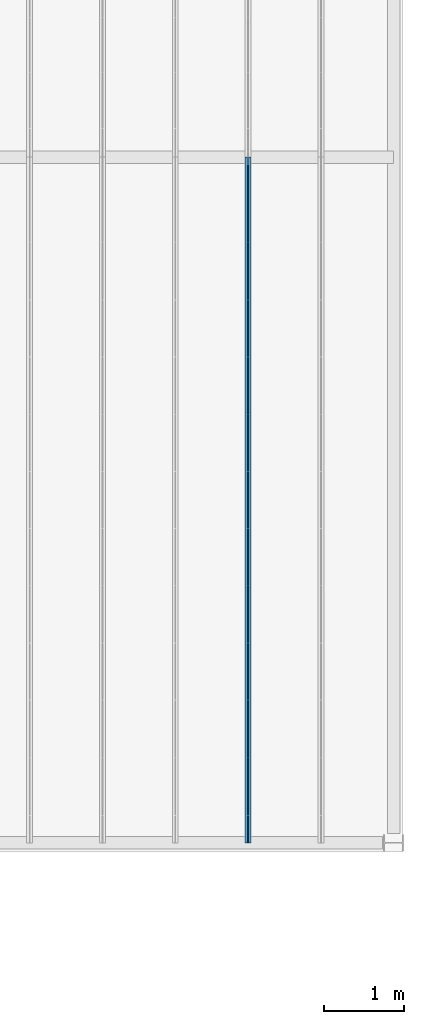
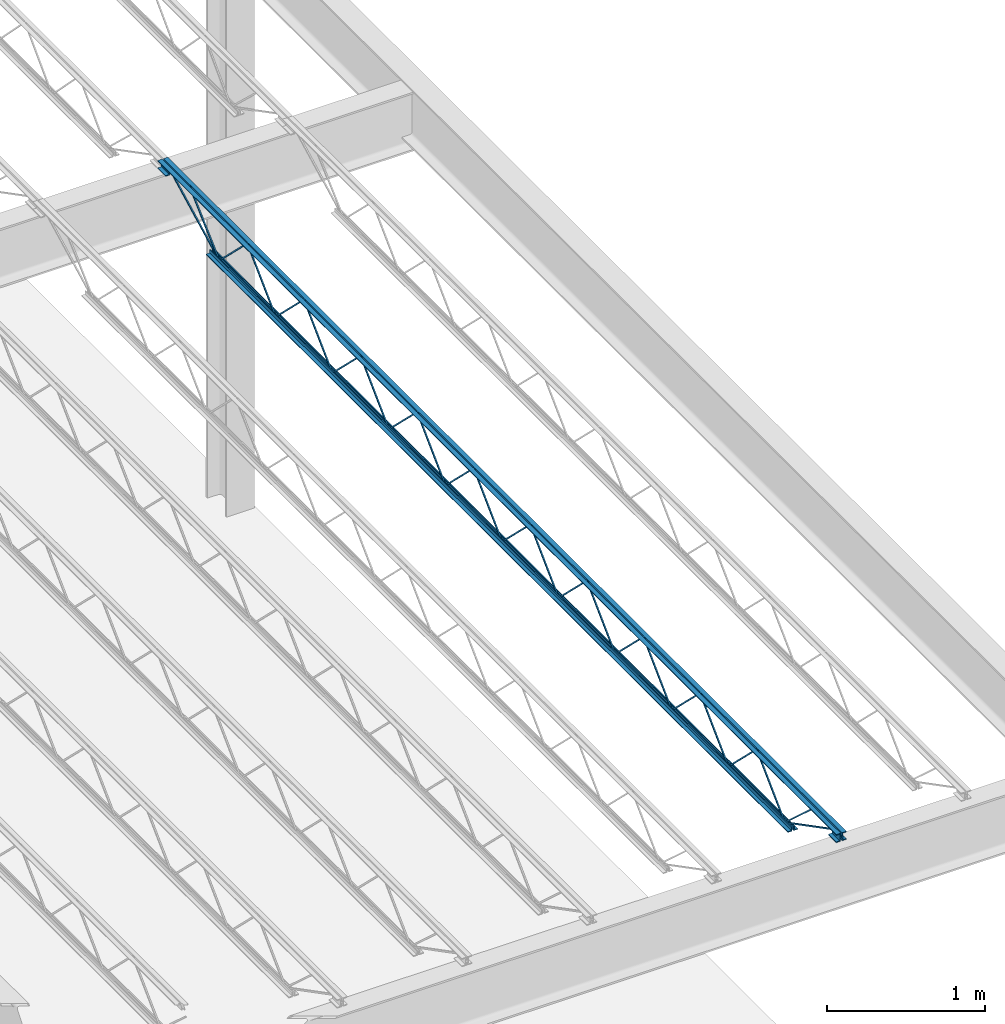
# One storey, part 69 of 119: 1 beam.
"""IFC2X3 building model written with IfcOpenShell, lengths in metres."""

from ifc_helpers import new_model, entity, si_unit, converted_unit, frame, origin, place, context, project, spatial, face_set, surface_model, element, save


model = new_model("IFC2X3")

# Units and contexts
model_context = context("Model", 3, precision=1e-09, world=origin())
plan_context = context("Plan", 3, precision=1e-09, world=origin())
ifc_project = project(units=[si_unit("LENGTHUNIT", "METRE"), si_unit("AREAUNIT", "SQUARE_METRE"), si_unit("VOLUMEUNIT", "CUBIC_METRE"), converted_unit("PLANEANGLEUNIT", "DEGREE", entity("IfcRatioMeasure", 0.01745329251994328), si_unit("PLANEANGLEUNIT", "RADIAN"), dimensions=[0, 0, 0, 0, 0, 0, 0]), si_unit("TIMEUNIT", "SECOND")], contexts=[model_context, plan_context])

# Site, building, storey
site_placement = place(None, origin())
site = spatial("IfcSite", under=ifc_project, at=site_placement, Name="Default", CompositionType="ELEMENT")
building_placement = place(site_placement, origin())
building = spatial("IfcBuilding", under=site, at=building_placement, CompositionType="ELEMENT")
storey_placement = place(building_placement, frame((0.0, 0.0, 4.570000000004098)))
storey = spatial("IfcBuildingStorey", under=building, at=storey_placement, Name="Second Floor", CompositionType="ELEMENT", Elevation=4.570000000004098)

# Beam
beam_placement = place(storey_placement, frame((-1.856750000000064, 10.03999999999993, 4.323999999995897)))
element("IfcBeam", 1, at=beam_placement, inside=storey, Name="M_K-Series Bar Joist-Rod Web:14K1:14K1", ObjectType="M_K-Series Bar Joist-Rod Web:14K1", context=model_context, shape_type="SurfaceModel", body=[
    surface_model("IfcFaceBasedSurfaceModel", [(0.04150000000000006, 6.428799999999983, 0.01110000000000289), (0.03200000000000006, 6.428799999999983, 0.01110000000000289), (0.03200000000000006, 6.428799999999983, 0.001600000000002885), (0.04150000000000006, 6.428799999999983, 0.001600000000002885), (0.03200000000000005, 6.430038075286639, 0.01110000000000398), (0.04150000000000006, 6.430038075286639, 0.01110000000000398), (0.03200000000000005, 6.433911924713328, 0.001600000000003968), (0.03200000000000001, 6.784861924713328, 0.3449000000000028), (0.03200000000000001, 6.787338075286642, 0.3449000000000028), (0.03199999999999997, 7.138288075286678, 0.001600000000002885), (0.03199999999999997, 7.143399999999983, 0.001600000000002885), (0.03199999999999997, 7.143399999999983, 0.01110000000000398), (0.03199999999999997, 7.142161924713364, 0.01110000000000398), (0.032, 6.791211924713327, 0.3544000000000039), (0.03200000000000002, 6.780988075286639, 0.3544000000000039), (0.04150000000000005, 6.433911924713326, 0.001600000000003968), (0.04150000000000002, 6.784861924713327, 0.3449000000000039), (0.04150000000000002, 6.78733807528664, 0.3449000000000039), (0.04149999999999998, 7.138288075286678, 0.001600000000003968), (0.04149999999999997, 7.143399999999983, 0.001600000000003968), (0.04149999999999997, 7.143399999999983, 0.01110000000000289), (0.04149999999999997, 7.142161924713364, 0.01110000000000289), (0.04150000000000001, 6.79121192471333, 0.3544000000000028), (0.04150000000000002, 6.780988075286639, 0.3544000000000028), (0.04150000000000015, 5.714199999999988, 0.01110000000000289), (0.03200000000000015, 5.714199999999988, 0.01110000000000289), (0.03200000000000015, 5.714199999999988, 0.001600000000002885), (0.04150000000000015, 5.714199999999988, 0.001600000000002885), (0.03200000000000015, 5.715438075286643, 0.01110000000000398), (0.04150000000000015, 5.715438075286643, 0.01110000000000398), (0.03200000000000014, 5.71931192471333, 0.001600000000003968), (0.03200000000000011, 6.07026192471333, 0.3449000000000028), (0.0320000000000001, 6.072738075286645, 0.3449000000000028), (0.03200000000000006, 6.423688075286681, 0.001600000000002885), (0.03200000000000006, 6.428799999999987, 0.001600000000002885), (0.03200000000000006, 6.428799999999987, 0.01110000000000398), (0.03200000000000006, 6.427561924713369, 0.01110000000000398), (0.03200000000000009, 6.076611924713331, 0.3544000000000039), (0.03200000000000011, 6.066388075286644, 0.3544000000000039), (0.04150000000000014, 5.71931192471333, 0.001600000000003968), (0.04150000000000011, 6.07026192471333, 0.3449000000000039), (0.0415000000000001, 6.072738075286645, 0.3449000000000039), (0.04150000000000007, 6.423688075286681, 0.001600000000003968), (0.04150000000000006, 6.428799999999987, 0.001600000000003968), (0.04150000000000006, 6.428799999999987, 0.01110000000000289), (0.04150000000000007, 6.427561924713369, 0.01110000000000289), (0.0415000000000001, 6.076611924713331, 0.3544000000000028), (0.04150000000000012, 6.066388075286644, 0.3544000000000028), (0.04149999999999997, 4.999599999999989, 0.01110000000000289), (0.03199999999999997, 4.999599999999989, 0.01110000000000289), (0.03199999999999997, 4.999599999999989, 0.001600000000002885), (0.04149999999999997, 4.999599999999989, 0.001600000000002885), (0.03199999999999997, 5.000838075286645, 0.01110000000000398), (0.04149999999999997, 5.000838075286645, 0.01110000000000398), (0.03199999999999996, 5.004711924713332, 0.001600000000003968), (0.03199999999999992, 5.355661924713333, 0.3449000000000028), (0.03200000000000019, 5.358138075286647, 0.3449000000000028), (0.03200000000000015, 5.709088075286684, 0.001600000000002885), (0.03200000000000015, 5.714199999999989, 0.001600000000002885), (0.03199999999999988, 5.714199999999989, 0.01110000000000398), (0.03199999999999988, 5.712961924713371, 0.01110000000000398), (0.03199999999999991, 5.362011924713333, 0.3544000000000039), (0.03199999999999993, 5.351788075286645, 0.3544000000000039), (0.04149999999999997, 5.004711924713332, 0.001600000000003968), (0.04149999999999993, 5.355661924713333, 0.3449000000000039), (0.04149999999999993, 5.358138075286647, 0.3449000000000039), (0.04149999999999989, 5.709088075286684, 0.001600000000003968), (0.04149999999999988, 5.714199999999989, 0.001600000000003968), (0.04150000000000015, 5.714199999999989, 0.01110000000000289), (0.04150000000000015, 5.712961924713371, 0.01110000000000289), (0.04150000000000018, 5.362011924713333, 0.3544000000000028), (0.04149999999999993, 5.351788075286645, 0.3544000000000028), (0.04150000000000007, 4.284999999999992, 0.01110000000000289), (0.03200000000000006, 4.284999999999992, 0.01110000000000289), (0.03200000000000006, 4.284999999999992, 0.001600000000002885), (0.04150000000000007, 4.284999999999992, 0.001600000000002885), (0.03200000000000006, 4.286238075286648, 0.01110000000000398), (0.04150000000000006, 4.286238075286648, 0.01110000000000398), (0.03200000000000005, 4.290111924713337, 0.001600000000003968), (0.03200000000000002, 4.641061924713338, 0.3449000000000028), (0.03200000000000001, 4.643538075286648, 0.3449000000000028), (0.03199999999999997, 4.994488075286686, 0.001600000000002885), (0.03199999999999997, 4.999599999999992, 0.001600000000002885), (0.03199999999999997, 4.999599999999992, 0.01110000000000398), (0.03199999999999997, 4.998361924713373, 0.01110000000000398), (0.032, 4.647411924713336, 0.3544000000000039), (0.03200000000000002, 4.637188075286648, 0.3544000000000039), (0.04150000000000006, 4.290111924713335, 0.001600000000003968), (0.04150000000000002, 4.641061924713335, 0.3449000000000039), (0.04150000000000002, 4.643538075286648, 0.3449000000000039), (0.04149999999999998, 4.994488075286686, 0.001600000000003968), (0.04149999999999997, 4.999599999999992, 0.001600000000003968), (0.04149999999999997, 4.999599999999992, 0.01110000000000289), (0.04149999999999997, 4.998361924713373, 0.01110000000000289), (0.04150000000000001, 4.647411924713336, 0.3544000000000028), (0.04150000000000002, 4.637188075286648, 0.3544000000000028), (0.04150000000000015, 3.570399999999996, 0.01110000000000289), (0.03200000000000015, 3.570399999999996, 0.01110000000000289), (0.03200000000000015, 3.570399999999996, 0.001600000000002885), (0.04150000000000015, 3.570399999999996, 0.001600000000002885), (0.03200000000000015, 3.571638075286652, 0.01110000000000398), (0.04150000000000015, 3.571638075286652, 0.01110000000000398), (0.03200000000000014, 3.575511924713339, 0.001600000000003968), (0.03200000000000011, 3.926461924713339, 0.3449000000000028), (0.0320000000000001, 3.928938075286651, 0.3449000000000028), (0.03200000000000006, 4.279888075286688, 0.001600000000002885), (0.03200000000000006, 4.284999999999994, 0.001600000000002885), (0.03200000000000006, 4.284999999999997, 0.01110000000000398), (0.03200000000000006, 4.283761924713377, 0.01110000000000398), (0.03200000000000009, 3.93281192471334, 0.3544000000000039), (0.03200000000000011, 3.922588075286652, 0.3544000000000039), (0.04150000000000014, 3.575511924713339, 0.001600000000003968), (0.04150000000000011, 3.926461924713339, 0.3449000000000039), (0.04150000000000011, 3.928938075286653, 0.3449000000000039), (0.04150000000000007, 4.27988807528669, 0.001600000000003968), (0.04150000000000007, 4.284999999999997, 0.001600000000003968), (0.04150000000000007, 4.284999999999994, 0.01110000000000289), (0.04150000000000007, 4.283761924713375, 0.01110000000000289), (0.0415000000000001, 3.932811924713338, 0.3544000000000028), (0.04150000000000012, 3.922588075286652, 0.3544000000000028), (0.04149999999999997, 2.855799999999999, 0.01110000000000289), (0.03199999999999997, 2.855799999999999, 0.01110000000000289), (0.03199999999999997, 2.855799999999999, 0.001600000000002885), (0.04149999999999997, 2.855799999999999, 0.001600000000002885), (0.03199999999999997, 2.857038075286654, 0.01110000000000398), (0.04149999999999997, 2.857038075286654, 0.01110000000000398), (0.03199999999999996, 2.860911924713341, 0.001600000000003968), (0.03199999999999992, 3.211861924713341, 0.3449000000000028), (0.0320000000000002, 3.214338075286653, 0.3449000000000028), (0.03200000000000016, 3.56528807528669, 0.001600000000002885), (0.03199999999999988, 3.570399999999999, 0.01110000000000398), (0.03199999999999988, 3.56916192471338, 0.01110000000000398), (0.03199999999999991, 3.218211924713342, 0.3544000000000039), (0.03199999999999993, 3.207988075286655, 0.3544000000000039), (0.04149999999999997, 2.860911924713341, 0.001600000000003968), (0.04149999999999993, 3.211861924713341, 0.3449000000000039), (0.04149999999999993, 3.214338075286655, 0.3449000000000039), (0.04149999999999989, 3.565288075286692, 0.001600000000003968), (0.04149999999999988, 3.570399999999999, 0.001600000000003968), (0.04150000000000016, 3.569161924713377, 0.01110000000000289), (0.0415000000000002, 3.21821192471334, 0.3544000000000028), (0.04149999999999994, 3.207988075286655, 0.3544000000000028), (0.04150000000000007, 2.1412, 0.01110000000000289), (0.03200000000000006, 2.1412, 0.01110000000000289), (0.03200000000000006, 2.1412, 0.001600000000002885), (0.04150000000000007, 2.1412, 0.001600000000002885), (0.03200000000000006, 2.142438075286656, 0.01110000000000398), (0.04150000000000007, 2.142438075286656, 0.01110000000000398), (0.03200000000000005, 2.146311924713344, 0.001600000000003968), (0.03200000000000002, 2.497261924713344, 0.3449000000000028), (0.03200000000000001, 2.499738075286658, 0.3449000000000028), (0.03199999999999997, 2.850688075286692, 0.001600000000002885), (0.03199999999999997, 2.8558, 0.001600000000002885), (0.03199999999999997, 2.8558, 0.01110000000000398), (0.03199999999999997, 2.854561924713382, 0.01110000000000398), (0.03200000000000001, 2.503611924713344, 0.3544000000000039), (0.03200000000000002, 2.493388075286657, 0.3544000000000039), (0.04150000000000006, 2.146311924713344, 0.001600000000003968), (0.04150000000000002, 2.497261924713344, 0.3449000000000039), (0.04150000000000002, 2.499738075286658, 0.3449000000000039), (0.04149999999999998, 2.850688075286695, 0.001600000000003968), (0.04149999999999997, 2.8558, 0.001600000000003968), (0.04149999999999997, 2.8558, 0.01110000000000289), (0.04149999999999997, 2.854561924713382, 0.01110000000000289), (0.04150000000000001, 2.503611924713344, 0.3544000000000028), (0.04150000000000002, 2.493388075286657, 0.3544000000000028), (0.04150000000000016, 1.426600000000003, 0.01110000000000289), (0.03200000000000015, 1.426600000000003, 0.01110000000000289), (0.03200000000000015, 1.426600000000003, 0.001600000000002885), (0.04150000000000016, 1.426600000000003, 0.001600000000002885), (0.03200000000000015, 1.427838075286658, 0.01110000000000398), (0.04150000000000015, 1.427838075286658, 0.01110000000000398), (0.03200000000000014, 1.431711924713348, 0.001600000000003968), (0.03200000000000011, 1.782661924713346, 0.3449000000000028), (0.03200000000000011, 1.78513807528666, 0.3449000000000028), (0.03200000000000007, 2.136088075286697, 0.001600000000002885), (0.03200000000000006, 2.141200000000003, 0.001600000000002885), (0.03200000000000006, 2.141200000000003, 0.01110000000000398), (0.03200000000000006, 2.139961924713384, 0.01110000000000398), (0.03200000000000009, 1.789011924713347, 0.3544000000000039), (0.03200000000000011, 1.778788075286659, 0.3544000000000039), (0.04150000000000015, 1.431711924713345, 0.001600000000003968), (0.04150000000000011, 1.782661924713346, 0.3449000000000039), (0.04150000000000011, 1.78513807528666, 0.3449000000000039), (0.04150000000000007, 2.136088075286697, 0.001600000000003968), (0.04150000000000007, 2.141200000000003, 0.001600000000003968), (0.04150000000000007, 2.141200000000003, 0.01110000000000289), (0.04150000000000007, 2.139961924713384, 0.01110000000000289), (0.0415000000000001, 1.789011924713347, 0.3544000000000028), (0.04150000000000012, 1.778788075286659, 0.3544000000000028), (0.04150000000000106, 7.143399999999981, 0.01109999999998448), (0.03200000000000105, 7.143399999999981, 0.01109999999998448), (0.03200000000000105, 7.143399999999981, 0.001599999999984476), (0.04150000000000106, 7.143399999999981, 0.001599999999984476), (0.03200000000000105, 7.144638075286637, 0.01109999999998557), (0.04150000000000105, 7.144638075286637, 0.01109999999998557), (0.03200000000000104, 7.148511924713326, 0.001599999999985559), (0.03200000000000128, 7.499461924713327, 0.3448999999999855), (0.03200000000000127, 7.50193807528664, 0.3448999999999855), (0.03200000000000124, 7.852888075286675, 0.001599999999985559), (0.03200000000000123, 7.857999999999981, 0.001599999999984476), (0.03200000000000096, 7.857999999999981, 0.01109999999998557), (0.03200000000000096, 7.856761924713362, 0.01109999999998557), (0.03200000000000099, 7.505811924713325, 0.3543999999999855), (0.03200000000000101, 7.495588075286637, 0.3543999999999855), (0.04150000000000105, 7.148511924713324, 0.001599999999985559), (0.04150000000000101, 7.499461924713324, 0.3448999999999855), (0.04150000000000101, 7.501938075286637, 0.3448999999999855), (0.04150000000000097, 7.852888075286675, 0.001599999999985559), (0.04150000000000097, 7.857999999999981, 0.001599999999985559), (0.04150000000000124, 7.857999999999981, 0.01109999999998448), (0.04150000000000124, 7.856761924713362, 0.01109999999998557), (0.04150000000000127, 7.505811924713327, 0.3543999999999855), (0.04150000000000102, 7.495588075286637, 0.3543999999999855), (0.04149999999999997, 0.712000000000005, 0.01110000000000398), (0.03199999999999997, 0.712000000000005, 0.01110000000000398), (0.03199999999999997, 0.712000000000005, 0.001600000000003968), (0.04149999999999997, 0.712000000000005, 0.001600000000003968), (0.03199999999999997, 0.7132380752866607, 0.01110000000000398), (0.04149999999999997, 0.7132380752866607, 0.01110000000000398), (0.03199999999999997, 0.7171119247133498, 0.001600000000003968), (0.03199999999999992, 1.068061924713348, 0.3449000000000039), (0.03199999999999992, 1.070538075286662, 0.3449000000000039), (0.03200000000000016, 1.421488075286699, 0.001600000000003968), (0.03200000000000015, 1.426600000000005, 0.001600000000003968), (0.03199999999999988, 1.426600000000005, 0.01110000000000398), (0.03199999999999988, 1.425361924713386, 0.01110000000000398), (0.03199999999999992, 1.074411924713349, 0.3544000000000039), (0.03199999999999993, 1.064188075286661, 0.3544000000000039), (0.04149999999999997, 0.7171119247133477, 0.001600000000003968), (0.04149999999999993, 1.068061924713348, 0.3449000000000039), (0.04149999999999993, 1.070538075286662, 0.3449000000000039), (0.0414999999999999, 1.421488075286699, 0.001600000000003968), (0.04149999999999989, 1.426600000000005, 0.001600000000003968), (0.04150000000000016, 1.426600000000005, 0.01110000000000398), (0.04150000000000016, 1.425361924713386, 0.01110000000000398), (0.0415000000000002, 1.074411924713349, 0.3544000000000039), (0.04149999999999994, 1.064188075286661, 0.3544000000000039), (0.03200000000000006, 8.569999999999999, 0.3559999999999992), (0.0, 8.569999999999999, 0.3559999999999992), (0.0, 8.569999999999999, 0.3494999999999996), (0.02549999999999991, 8.569999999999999, 0.3494999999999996), (0.02549999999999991, 8.569999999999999, 0.3239999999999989), (0.03200000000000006, 8.569999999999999, 0.3239999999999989), (0.04149999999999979, 8.569999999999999, 0.3559999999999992), (0.04149999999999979, 8.569999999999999, 0.3239999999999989), (0.04799999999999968, 8.569999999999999, 0.3239999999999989), (0.04799999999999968, 8.569999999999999, 0.3494999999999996), (0.0735000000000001, 8.569999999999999, 0.3494999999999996), (0.0735000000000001, 8.569999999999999, 0.3559999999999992), (0.03200000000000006, 0.0, 0.3559999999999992), (0.0, 0.0, 0.3559999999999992), (0.0, 0.0, 0.3494999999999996), (0.02549999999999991, 0.0, 0.3494999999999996), (0.02549999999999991, 0.0, 0.3239999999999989), (0.03200000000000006, 0.0, 0.3239999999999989), (0.04149999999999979, 0.0, 0.3559999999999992), (0.04149999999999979, 0.0, 0.3239999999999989), (0.04799999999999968, 0.0, 0.3239999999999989), (0.04799999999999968, 0.0, 0.3494999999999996), (0.0735000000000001, 0.0, 0.3494999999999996), (0.0735000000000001, 0.0, 0.3559999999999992), (0.0414999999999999, 0.0999999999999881, 0.2924999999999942), (0.0735000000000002, 0.0999999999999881, 0.2924999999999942), (0.0735000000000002, 0.0999999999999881, 0.2989999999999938), (0.04799999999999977, 0.0999999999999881, 0.2989999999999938), (0.04799999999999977, 0.0999999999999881, 0.3239999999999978), (0.0414999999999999, 0.0999999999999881, 0.3239999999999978), (0.0, 0.0999999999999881, 0.2924999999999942), (0.03199999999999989, 0.0999999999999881, 0.2924999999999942), (0.03199999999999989, 0.0999999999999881, 0.3239999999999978), (0.02550000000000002, 0.0999999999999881, 0.3239999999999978), (0.02550000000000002, 0.0999999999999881, 0.2989999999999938), (0.0, 0.0999999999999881, 0.2989999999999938), (0.04149999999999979, 0.0, 0.2924999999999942), (0.0735000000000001, 0.0, 0.2924999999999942), (0.0735000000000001, 0.0, 0.2989999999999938), (0.04799999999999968, 0.0, 0.2989999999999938), (0.04799999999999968, 0.0, 0.3239999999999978), (0.04149999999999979, 0.0, 0.3239999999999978), (0.0, 0.0, 0.2924999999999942), (0.03199999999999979, 0.0, 0.2924999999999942), (0.03199999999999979, 0.0, 0.3239999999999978), (0.02549999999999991, 0.0, 0.3239999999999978), (0.02549999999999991, 0.0, 0.2989999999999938), (0.0, 0.0, 0.2989999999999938), (0.03199999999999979, 8.569999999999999, 0.2924999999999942), (0.03199999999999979, 8.569999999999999, 0.3239999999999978), (0.02549999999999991, 8.569999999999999, 0.3239999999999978), (0.02549999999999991, 8.569999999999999, 0.2989999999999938), (0.0, 8.569999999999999, 0.2989999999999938), (0.0, 8.569999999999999, 0.2924999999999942), (0.04149999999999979, 8.569999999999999, 0.2924999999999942), (0.0735000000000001, 8.569999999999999, 0.2924999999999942), (0.0735000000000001, 8.569999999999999, 0.2989999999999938), (0.04799999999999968, 8.569999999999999, 0.2989999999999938), (0.04799999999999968, 8.569999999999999, 0.3239999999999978), (0.04149999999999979, 8.569999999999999, 0.3239999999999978), (0.03199999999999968, 8.47, 0.2924999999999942), (0.03199999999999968, 8.47, 0.3239999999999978), (0.0254999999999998, 8.47, 0.3239999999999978), (0.0254999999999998, 8.47, 0.2989999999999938), (0.0, 8.47, 0.2989999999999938), (0.0, 8.47, 0.2924999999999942), (0.04149999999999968, 8.47, 0.2924999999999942), (0.0735, 8.47, 0.2924999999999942), (0.0735, 8.47, 0.2989999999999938), (0.04799999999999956, 8.47, 0.2989999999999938), (0.04799999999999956, 8.47, 0.3239999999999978), (0.04149999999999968, 8.47, 0.3239999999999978), (0.03199999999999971, 7.958000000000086, 0.0), (0.03199999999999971, 7.958000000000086, 0.03199999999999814), (0.02549999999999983, 7.958000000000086, 0.03199999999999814), (0.02549999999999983, 7.958000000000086, 0.006499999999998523), (0.0, 7.958000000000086, 0.006499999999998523), (0.0, 7.958000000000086, 0.0), (0.04149999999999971, 7.958000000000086, 0.0), (0.07350000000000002, 7.958000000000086, 0.0), (0.07350000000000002, 7.958000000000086, 0.006499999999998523), (0.04799999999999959, 7.958000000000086, 0.006499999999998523), (0.04799999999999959, 7.958000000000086, 0.03199999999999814), (0.04149999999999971, 7.958000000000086, 0.03199999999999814), (0.03199999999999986, 0.6120000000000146, 0.0), (0.03199999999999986, 0.6120000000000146, 0.03199999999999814), (0.02549999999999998, 0.6120000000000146, 0.03199999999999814), (0.02549999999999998, 0.6120000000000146, 0.006499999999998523), (0.0, 0.6120000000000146, 0.006499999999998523), (0.0, 0.6120000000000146, 0.0), (0.04149999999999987, 0.6120000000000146, 0.0), (0.07350000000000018, 0.6120000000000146, 0.0), (0.07350000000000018, 0.6120000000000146, 0.006499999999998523), (0.04799999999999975, 0.6120000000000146, 0.006499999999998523), (0.04799999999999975, 0.6120000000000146, 0.03199999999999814), (0.04149999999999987, 0.6120000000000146, 0.03199999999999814), (0.04149999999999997, 0.7141882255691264, 0.01056594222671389), (0.03199999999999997, 0.7141882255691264, 0.01056594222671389), (0.03199999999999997, 0.7098117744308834, 0.002134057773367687), (0.04149999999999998, 0.7098117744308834, 0.00213405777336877), (0.0414999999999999, 0.1011592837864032, 0.3287499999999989), (0.04150000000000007, 0.0, 0.3287499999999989), (0.04150000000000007, 0.0, 0.3192499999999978), (0.04150000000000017, 0.09884071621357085, 0.3192499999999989), (0.0319999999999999, 0.09884071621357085, 0.3192499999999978), (0.03200000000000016, 0.1011592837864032, 0.3287499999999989), (0.03200000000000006, 0.0, 0.3287499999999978), (0.03200000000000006, 0.0, 0.3192499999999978), (0.04150000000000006, 0.3347428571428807, 0.3417000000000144), (0.03200000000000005, 0.3347428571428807, 0.3417000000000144), (0.03200000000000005, 0.3347428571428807, 0.3322000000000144), (0.04150000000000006, 0.3347428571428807, 0.3322000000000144), (0.03200000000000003, 0.349275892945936, 0.3417000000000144), (0.04150000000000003, 0.3492758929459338, 0.3417000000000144), (0.03200000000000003, 0.3456098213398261, 0.3322000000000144), (0.03199999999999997, 0.7088091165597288, 0.002831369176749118), (0.03199999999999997, 0.7151908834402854, 0.009868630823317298), (0.04150000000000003, 0.3456098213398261, 0.3322000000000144), (0.04149999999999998, 0.708809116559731, 0.002831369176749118), (0.04149999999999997, 0.7151908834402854, 0.009868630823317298), (0.04149999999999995, 8.472188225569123, 0.3197840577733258), (0.04149999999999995, 8.467811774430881, 0.328215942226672), (0.03199999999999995, 8.467811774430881, 0.328215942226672), (0.03199999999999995, 8.472188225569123, 0.3197840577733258), (0.04150000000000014, 7.860188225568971, 0.002134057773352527), (0.04150000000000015, 7.855811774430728, 0.01056594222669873), (0.03200000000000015, 7.855811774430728, 0.01056594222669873), (0.03200000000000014, 7.860188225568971, 0.002134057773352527), (0.04150000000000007, 8.233036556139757, 0.3461600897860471), (0.04150000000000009, 8.22659201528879, 0.3531399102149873), (0.03200000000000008, 8.22659201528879, 0.3531399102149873), (0.03200000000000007, 8.233036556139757, 0.3461600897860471), (0.04150000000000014, 7.86122227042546, 0.00286008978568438), (0.04150000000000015, 7.854777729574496, 0.009839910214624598), (0.03200000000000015, 7.854777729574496, 0.009839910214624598), (0.03200000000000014, 7.86122227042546, 0.00286008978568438)], [face_set([[[0, 1, 2, 3]], [[1, 4, 5, 0]], [[2, 6, 7, 8, 9, 10, 11, 12, 13, 14, 4, 1]], [[3, 2, 6, 15]], [[0, 3, 15, 16, 17, 18, 19, 20, 21, 22, 23, 5]], [[4, 5, 23, 14]], [[15, 16, 7, 6]], [[14, 13, 22, 23]], [[16, 7, 8, 17]], [[13, 12, 21, 22]], [[17, 8, 9, 18]], [[20, 11, 10, 19]], [[12, 11, 20, 21]], [[18, 9, 10, 19]]]), face_set([[[24, 25, 26, 27]], [[25, 28, 29, 24]], [[26, 30, 31, 32, 33, 34, 35, 36, 37, 38, 28, 25]], [[27, 26, 30, 39]], [[24, 27, 39, 40, 41, 42, 43, 44, 45, 46, 47, 29]], [[28, 29, 47, 38]], [[39, 40, 31, 30]], [[38, 37, 46, 47]], [[40, 31, 32, 41]], [[37, 36, 45, 46]], [[41, 32, 33, 42]], [[44, 35, 34, 43]], [[36, 35, 44, 45]], [[42, 33, 34, 43]]]), face_set([[[48, 49, 50, 51]], [[49, 52, 53, 48]], [[50, 54, 55, 56, 57, 58, 59, 60, 61, 62, 52, 49]], [[51, 50, 54, 63]], [[48, 51, 63, 64, 65, 66, 67, 68, 69, 70, 71, 53]], [[52, 53, 71, 62]], [[63, 64, 55, 54]], [[62, 61, 70, 71]], [[64, 55, 56, 65]], [[61, 60, 69, 70]], [[65, 56, 57, 66]], [[68, 59, 58, 67]], [[60, 59, 68, 69]], [[66, 57, 58, 67]]]), face_set([[[72, 73, 74, 75]], [[73, 76, 77, 72]], [[74, 78, 79, 80, 81, 82, 83, 84, 85, 86, 76, 73]], [[75, 74, 78, 87]], [[72, 75, 87, 88, 89, 90, 91, 92, 93, 94, 95, 77]], [[76, 77, 95, 86]], [[87, 88, 79, 78]], [[86, 85, 94, 95]], [[88, 79, 80, 89]], [[85, 84, 93, 94]], [[89, 80, 81, 90]], [[92, 83, 82, 91]], [[84, 83, 92, 93]], [[90, 81, 82, 91]]]), face_set([[[96, 97, 98, 99]], [[97, 100, 101, 96]], [[98, 102, 103, 104, 105, 106, 107, 108, 109, 110, 100, 97]], [[99, 98, 102, 111]], [[96, 99, 111, 112, 113, 114, 115, 116, 117, 118, 119, 101]], [[100, 101, 119, 110]], [[111, 112, 103, 102]], [[110, 109, 118, 119]], [[112, 103, 104, 113]], [[109, 108, 117, 118]], [[113, 104, 105, 114]], [[116, 107, 106, 115]], [[108, 107, 116, 117]], [[114, 105, 106, 115]]]), face_set([[[120, 121, 122, 123]], [[121, 124, 125, 120]], [[122, 126, 127, 128, 129, 98, 130, 131, 132, 133, 124, 121]], [[123, 122, 126, 134]], [[120, 123, 134, 135, 136, 137, 138, 96, 139, 140, 141, 125]], [[124, 125, 141, 133]], [[134, 135, 127, 126]], [[133, 132, 140, 141]], [[135, 127, 128, 136]], [[132, 131, 139, 140]], [[136, 128, 129, 137]], [[96, 130, 98, 138]], [[131, 130, 96, 139]], [[137, 129, 98, 138]]]), face_set([[[142, 143, 144, 145]], [[143, 146, 147, 142]], [[144, 148, 149, 150, 151, 152, 153, 154, 155, 156, 146, 143]], [[145, 144, 148, 157]], [[142, 145, 157, 158, 159, 160, 161, 162, 163, 164, 165, 147]], [[146, 147, 165, 156]], [[157, 158, 149, 148]], [[156, 155, 164, 165]], [[158, 149, 150, 159]], [[155, 154, 163, 164]], [[159, 150, 151, 160]], [[162, 153, 152, 161]], [[154, 153, 162, 163]], [[160, 151, 152, 161]]]), face_set([[[166, 167, 168, 169]], [[167, 170, 171, 166]], [[168, 172, 173, 174, 175, 176, 177, 178, 179, 180, 170, 167]], [[169, 168, 172, 181]], [[166, 169, 181, 182, 183, 184, 185, 186, 187, 188, 189, 171]], [[170, 171, 189, 180]], [[181, 182, 173, 172]], [[180, 179, 188, 189]], [[182, 173, 174, 183]], [[179, 178, 187, 188]], [[183, 174, 175, 184]], [[186, 177, 176, 185]], [[178, 177, 186, 187]], [[184, 175, 176, 185]]]), face_set([[[190, 191, 192, 193]], [[191, 194, 195, 190]], [[192, 196, 197, 198, 199, 200, 201, 202, 203, 204, 194, 191]], [[193, 192, 196, 205]], [[190, 193, 205, 206, 207, 208, 209, 210, 211, 212, 213, 195]], [[194, 195, 213, 204]], [[205, 206, 197, 196]], [[204, 203, 212, 213]], [[206, 197, 198, 207]], [[203, 202, 211, 212]], [[207, 198, 199, 208]], [[210, 201, 200, 209]], [[202, 201, 210, 211]], [[208, 199, 200, 209]]]), face_set([[[214, 215, 216, 217]], [[215, 218, 219, 214]], [[216, 220, 221, 222, 223, 224, 225, 226, 227, 228, 218, 215]], [[217, 216, 220, 229]], [[214, 217, 229, 230, 231, 232, 233, 234, 235, 236, 237, 219]], [[218, 219, 237, 228]], [[229, 230, 221, 220]], [[228, 227, 236, 237]], [[230, 221, 222, 231]], [[227, 226, 235, 236]], [[231, 222, 223, 232]], [[234, 225, 224, 233]], [[226, 225, 234, 235]], [[232, 223, 224, 233]]]), face_set([[[238, 239, 240, 241, 242, 243]], [[244, 245, 246, 247, 248, 249]], [[250, 251, 252, 253, 254, 255]], [[256, 257, 258, 259, 260, 261]], [[243, 238, 250, 255]], [[242, 243, 255, 254]], [[241, 253, 254, 242]], [[240, 241, 253, 252]], [[239, 251, 252, 240]], [[238, 250, 251, 239]], [[249, 261, 256, 244]], [[248, 249, 261, 260]], [[247, 248, 260, 259]], [[246, 247, 259, 258]], [[245, 246, 258, 257]], [[244, 256, 257, 245]]]), face_set([[[262, 263, 264, 265, 266, 267]], [[268, 269, 270, 271, 272, 273]], [[274, 275, 276, 277, 278, 279]], [[280, 281, 282, 283, 284, 285]], [[267, 279, 274, 262]], [[266, 278, 279, 267]], [[265, 266, 278, 277]], [[264, 276, 277, 265]], [[263, 264, 276, 275]], [[262, 263, 275, 274]], [[273, 285, 280, 268]], [[272, 284, 285, 273]], [[271, 283, 284, 272]], [[270, 282, 283, 271]], [[269, 270, 282, 281]], [[268, 269, 281, 280]]]), face_set([[[286, 287, 288, 289, 290, 291]], [[292, 293, 294, 295, 296, 297]], [[298, 299, 300, 301, 302, 303]], [[304, 305, 306, 307, 308, 309]], [[291, 286, 298, 303]], [[290, 302, 303, 291]], [[289, 301, 302, 290]], [[288, 300, 301, 289]], [[287, 299, 300, 288]], [[286, 287, 299, 298]], [[297, 309, 304, 292]], [[296, 308, 309, 297]], [[295, 296, 308, 307]], [[294, 306, 307, 295]], [[293, 294, 306, 305]], [[292, 293, 305, 304]]]), face_set([[[310, 311, 312, 313, 314, 315]], [[316, 317, 318, 319, 320, 321]], [[322, 323, 324, 325, 326, 327]], [[328, 329, 330, 331, 332, 333]], [[315, 310, 322, 327]], [[314, 326, 327, 315]], [[313, 325, 326, 314]], [[312, 324, 325, 313]], [[311, 323, 324, 312]], [[310, 311, 323, 322]], [[321, 333, 328, 316]], [[320, 332, 333, 321]], [[319, 320, 332, 331]], [[318, 330, 331, 319]], [[317, 318, 330, 329]], [[316, 317, 329, 328]]]), face_set([[[334, 335, 336, 337]], [[337, 334, 338, 339, 340, 341]], [[336, 337, 341, 342]], [[335, 343, 344, 345, 342, 336]], [[334, 338, 343, 335]], [[339, 344, 345, 340]], [[342, 341, 340, 345]], [[338, 339, 344, 343]]]), face_set([[[346, 347, 348, 349]], [[347, 350, 351, 346]], [[348, 352, 353, 354, 350, 347]], [[349, 348, 352, 355]], [[346, 349, 355, 356, 357, 351]], [[357, 354, 353, 356]], [[350, 354, 357, 351]], [[355, 352, 353, 356]]]), face_set([[[358, 359, 360, 361]], [[362, 363, 364, 365]], [[361, 358, 362, 365]], [[360, 364, 365, 361]], [[359, 363, 364, 360]], [[358, 359, 363, 362]]]), face_set([[[366, 367, 368, 369]], [[370, 371, 372, 373]], [[369, 373, 370, 366]], [[368, 372, 373, 369]], [[367, 368, 372, 371]], [[366, 367, 371, 370]]])]),
])

save(model, "model.ifc")
